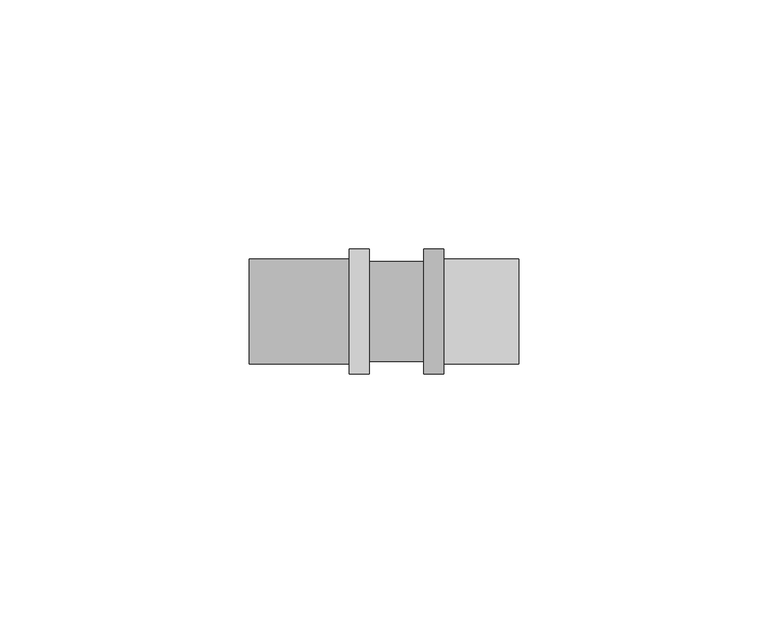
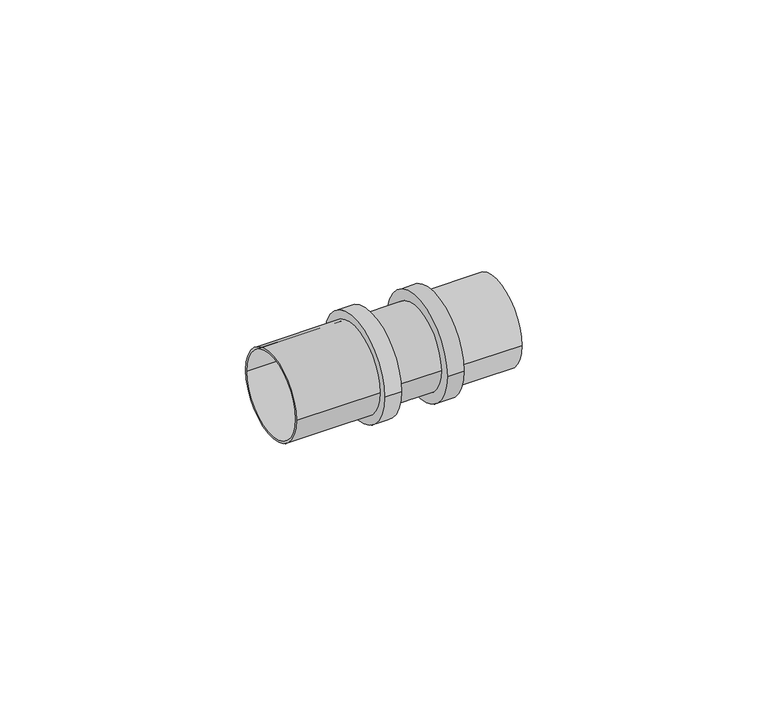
"""IFC4 building model written with IfcOpenShell, lengths in millimetres: pipe fitting geometry, БИР ПЕКС_НПР_Соединитель_Резьба_Наружная : Соединитель прямой с наружной резьбой."""

from ifc_helpers import new_model, si_unit, point, frame, origin, origin_2d, place, context, project, spatial, circle_curve, trimmed, segment, composite_curve, outline, extrude, source, transform, mapped, element, save


def pipe_fitting_8e0c83e0(model_context):
    return source(origin(), model_context, "Body", "SweptSolid", [
        extrude(outline(composite_curve([segment(trimmed(circle_curve(origin_2d(), 10.5), [point((-10.5, 0.0))], [point((10.5, 0.0))], False, "CARTESIAN"), True, "CONTINUOUS"), segment(trimmed(circle_curve(origin_2d(), 10.5), [point((10.5, 0.0))], [point((-10.5, 0.0))], False, "CARTESIAN"), True, "CONTINUOUS")], self_intersect=False), holes=[composite_curve([segment(trimmed(circle_curve(origin_2d(), 10.0), [point((-10.0, 0.0))], [point((10.0, 0.0))], True, "CARTESIAN"), True, "CONTINUOUS"), segment(trimmed(circle_curve(origin_2d(), 10.0), [point((10.0, 0.0))], [point((-10.0, 0.0))], True, "CARTESIAN"), True, "CONTINUOUS")], self_intersect=False)]), frame((-26.375, 0.0, 0.0), z_axis=(1.0, 0.0, 0.0), x_axis=(0.0, 1.0, 0.0)), (0.0, 0.0, 1.0), 20.0),
        extrude(outline(composite_curve([segment(trimmed(circle_curve(origin_2d(), 10.5), [point((-10.5, 0.0))], [point((10.5, 0.0))], False, "CARTESIAN"), True, "CONTINUOUS"), segment(trimmed(circle_curve(origin_2d(), 10.5), [point((10.5, 0.0))], [point((-10.5, 0.0))], False, "CARTESIAN"), True, "CONTINUOUS")], self_intersect=False), holes=[composite_curve([segment(trimmed(circle_curve(origin_2d(), 10.0), [point((-10.0, 0.0))], [point((10.0, 0.0))], True, "CARTESIAN"), True, "CONTINUOUS"), segment(trimmed(circle_curve(origin_2d(), 10.0), [point((10.0, 0.0))], [point((-10.0, 0.0))], True, "CARTESIAN"), True, "CONTINUOUS")], self_intersect=False)]), frame((12.625, 0.0, 0.0), z_axis=(1.0, 0.0, 0.0), x_axis=(0.0, 1.0, 0.0)), (0.0, 0.0, 1.0), 15.0),
        extrude(outline(composite_curve([segment(trimmed(circle_curve(origin_2d(), 10.0), [point((-10.0, 0.0))], [point((10.0, 0.0))], False, "CARTESIAN"), True, "CONTINUOUS"), segment(trimmed(circle_curve(origin_2d(), 10.0), [point((10.0, 0.0))], [point((-10.0, 0.0))], False, "CARTESIAN"), True, "CONTINUOUS")], self_intersect=False)), frame((-2.375, 0.0, 0.0), z_axis=(1.0, 0.0, 0.0), x_axis=(0.0, 1.0, 0.0)), (0.0, 0.0, 1.0), 11.0),
        extrude(outline(composite_curve([segment(trimmed(circle_curve(origin_2d(), 12.5), [point((-12.5, 0.0))], [point((12.5, 0.0))], False, "CARTESIAN"), True, "CONTINUOUS"), segment(trimmed(circle_curve(origin_2d(), 12.5), [point((12.5, 0.0))], [point((-12.5, 0.0))], False, "CARTESIAN"), True, "CONTINUOUS")], self_intersect=False), holes=[composite_curve([segment(trimmed(circle_curve(origin_2d(), 10.0), [point((-10.0, 0.0))], [point((10.0, 0.0))], True, "CARTESIAN"), True, "CONTINUOUS"), segment(trimmed(circle_curve(origin_2d(), 10.0), [point((10.0, 0.0))], [point((-10.0, 0.0))], True, "CARTESIAN"), True, "CONTINUOUS")], self_intersect=False)]), frame((8.625, 0.0, 0.0), z_axis=(1.0, 0.0, 0.0), x_axis=(0.0, 1.0, 0.0)), (0.0, 0.0, 1.0), 4.0),
        extrude(outline(composite_curve([segment(trimmed(circle_curve(origin_2d(), 12.5), [point((-12.5, 0.0))], [point((12.5, 0.0))], False, "CARTESIAN"), True, "CONTINUOUS"), segment(trimmed(circle_curve(origin_2d(), 12.5), [point((12.5, 0.0))], [point((-12.5, 0.0))], False, "CARTESIAN"), True, "CONTINUOUS")], self_intersect=False), holes=[composite_curve([segment(trimmed(circle_curve(origin_2d(), 10.0), [point((-10.0, 0.0))], [point((10.0, 0.0))], True, "CARTESIAN"), True, "CONTINUOUS"), segment(trimmed(circle_curve(origin_2d(), 10.0), [point((10.0, 0.0))], [point((-10.0, 0.0))], True, "CARTESIAN"), True, "CONTINUOUS")], self_intersect=False)]), frame((-6.375, 0.0, 0.0), z_axis=(1.0, 0.0, 0.0), x_axis=(0.0, 1.0, 0.0)), (0.0, 0.0, 1.0), 4.0),
    ])


if __name__ == "__main__":
    model = new_model("IFC4")
    model_context = context("Model", 3, world=origin())
    ifc_project = project(units=[si_unit("LENGTHUNIT", "METRE", prefix="MILLI")], contexts=[model_context])
    site = spatial("IfcSite", under=ifc_project)
    building = spatial("IfcBuilding", under=site)
    placement = place(None, origin())
    pipe_fitting_shape = pipe_fitting_8e0c83e0(model_context)
    element("IfcPipeFitting", 1, ObjectType="БИР ПЕКС_НПР_Соединитель_Резьба_Наружная : Соединитель прямой с наружной резьбой", at=placement, inside=building, context=model_context, shape_type="MappedRepresentation", body=[
        mapped(pipe_fitting_shape, transform((0.0, 0.0, 0.0), x_axis=(1.0, 0.0, 0.0), y_axis=(0.0, 1.0, 0.0), z_axis=(0.0, 0.0, 1.0))),
    ])
    save(model, "model.ifc")
